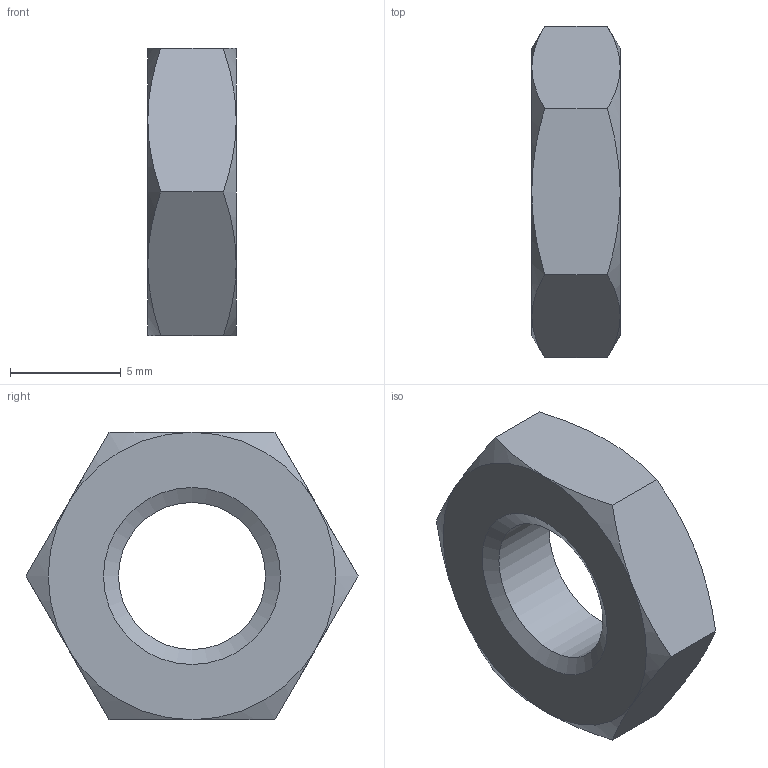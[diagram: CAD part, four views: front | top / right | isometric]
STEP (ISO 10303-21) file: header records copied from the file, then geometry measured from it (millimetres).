
FILE_DESCRIPTION(/* description */ ('6각 너트 및 6각 가는 너트 - 이중 모따기'),/* implementation_level */ '2;1');
FILE_NAME(/* name */ '',/* time_stamp */ '2024-04-08T11:16:50+09:00',/* author */ ('jhkim'),/* organization */ (''),/* preprocessor_version */ 'ST-DEVELOPER v20',/* originating_system */ 'Autodesk Inventor 2025',/* authorisation */ '');
FILE_SCHEMA (('AUTOMOTIVE_DESIGN { 1 0 10303 214 3 1 1 }'));
Length unit declared in the file: millimetre
Products named in the file (1): 육각 너트 M8
Bounding box: 4 x 15.01 x 13 mm (x, y, z)
Volume: 436 mm3; surface area: 461.8 mm2
Topology: 1 solids, 1 shells, 23 faces, 50 edges, 29 vertices
Faces by surface type: cone 14, plane 8, cylinder 1
Full cylindrical faces by diameter (mm): 6.647 x1
Entity records: 640 total; most frequent: CARTESIAN_POINT 151, ORIENTED_EDGE 100, DIRECTION 91, EDGE_CURVE 50, AXIS2_PLACEMENT_3D 41, VERTEX_POINT 29, EDGE_LOOP 25, FACE_OUTER_BOUND 23
